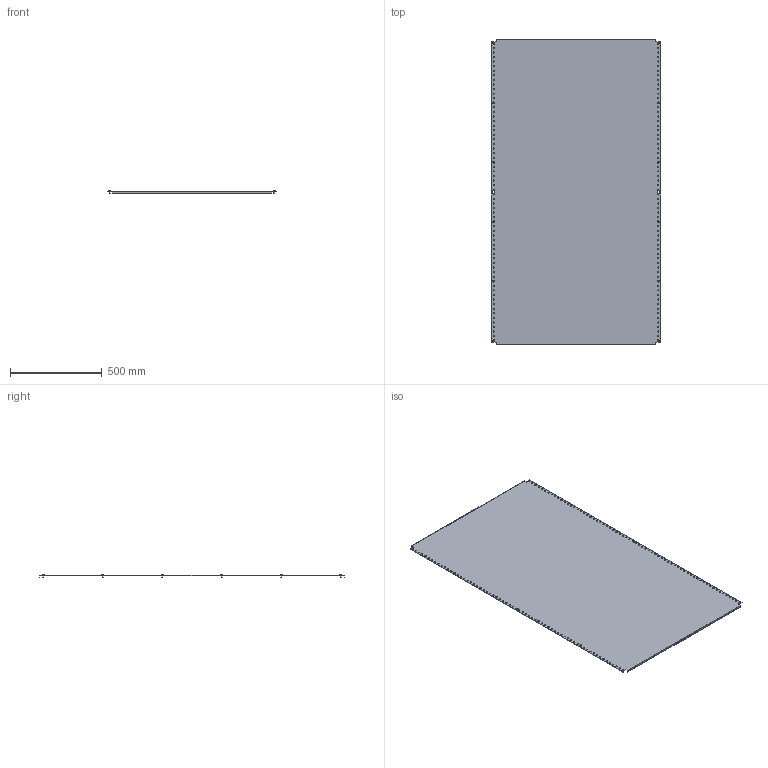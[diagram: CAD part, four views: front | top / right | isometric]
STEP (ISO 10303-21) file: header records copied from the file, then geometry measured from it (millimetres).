
FILE_DESCRIPTION (( 'STEP AP203' ), '1' );
FILE_NAME ('R6MP18100.STEP', '2025-03-28T12:11:36', ( '' ), ( '' ), 'SwSTEP 2.0', 'SolidWorks 2022', '' );
FILE_SCHEMA (( 'CONFIG_CONTROL_DESIGN' ));
Length unit declared in the file: millimetre
Products named in the file (3): RB.3293.00.00.0_-24; R6MP18100; M5x12 DIN 7500 C Torx Zinc_stright
Assembly tree (13 placements, depth 2):
  R6MP18100
    RB.3293.00.00.0_-24
    M5x12 DIN 7500 C Torx Zinc_stright  x12
Bounding box: 925 x 1670 x 15.56 mm (x, y, z)
Volume: 2800056.9 mm3; surface area: 3125024.3 mm2
Topology: 13 solids, 13 shells, 358 faces, 852 edges, 532 vertices
Faces by surface type: cylinder 160, plane 126, torus 24, cone 24, sphere 12, bspline 12
Full cylindrical faces by diameter (mm): 5 x12, 6.5 x132, 9.5 x12
Entity records: 6757 total; most frequent: CARTESIAN_POINT 1124, DIRECTION 1052, ORIENTED_EDGE 760, EDGE_LOOP 590, AXIS2_PLACEMENT_3D 482, EDGE_CURVE 380, VERTEX_POINT 342, FACE_OUTER_BOUND 320
